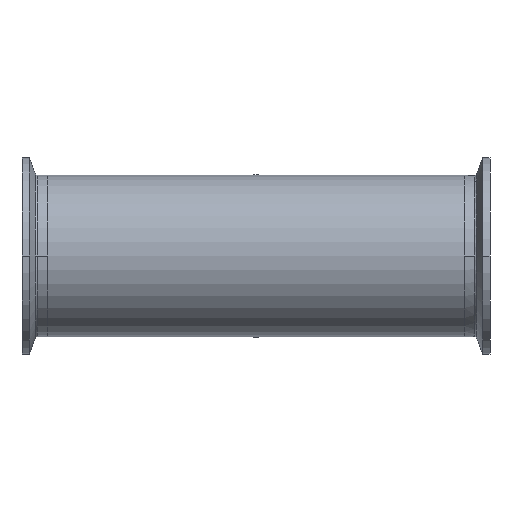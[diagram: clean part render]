
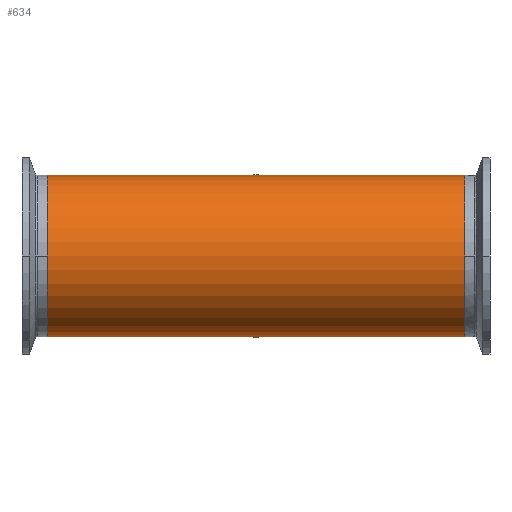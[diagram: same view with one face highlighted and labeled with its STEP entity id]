
A CAD part, front view. The second image highlights one B-rep face of the part: STEP entity #634.
In plain terms, the highlighted cylindrical face has radius 31.75 mm (diameter 63.5 mm), a partial arc.
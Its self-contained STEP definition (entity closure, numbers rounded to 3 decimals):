
#41 = VECTOR ( 'NONE', #3754, 1000. ) ;
#60 = VECTOR ( 'NONE', #247, 1000. ) ;
#125 = AXIS2_PLACEMENT_3D ( 'NONE', #4373, #3361, #4949 ) ;
#181 = CARTESIAN_POINT ( 'NONE',  ( 171.903, 0., -31.75 ) ) ;
#247 = DIRECTION ( 'NONE',  ( -1., 0., 0. ) ) ;
#273 = DIRECTION ( 'NONE',  ( 0., 0., 1. ) ) ;
#344 = ORIENTED_EDGE ( 'NONE', *, *, #4504, .T. ) ;
#389 = ORIENTED_EDGE ( 'NONE', *, *, #1855, .T. ) ;
#634 = ADVANCED_FACE ( 'NONE', ( #2067 ), #4857, .T. ) ;
#1015 = VERTEX_POINT ( 'NONE', #2542 ) ;
#1022 = CARTESIAN_POINT ( 'NONE',  ( 171.903, 0., 31.75 ) ) ;
#1091 = LINE ( 'NONE', #1022, #41 ) ;
#1224 = LINE ( 'NONE', #181, #60 ) ;
#1501 = EDGE_CURVE ( 'NONE', #2989, #1015, #1224, .T. ) ;
#1531 = ORIENTED_EDGE ( 'NONE', *, *, #1501, .F. ) ;
#1855 = EDGE_CURVE ( 'NONE', #3515, #1015, #2256, .T. ) ;
#2067 = FACE_OUTER_BOUND ( 'NONE', #2893, .T. ) ;
#2146 = DIRECTION ( 'NONE',  ( 1., 0., 0. ) ) ;
#2256 = CIRCLE ( 'NONE', #4359, 31.75 ) ;
#2538 = ORIENTED_EDGE ( 'NONE', *, *, #3683, .T. ) ;
#2542 = CARTESIAN_POINT ( 'NONE',  ( -82.1, 0., -31.75 ) ) ;
#2664 = DIRECTION ( 'NONE',  ( -1., 0., 0. ) ) ;
#2693 = CARTESIAN_POINT ( 'NONE',  ( 82.1, 0., -31.75 ) ) ;
#2805 = VERTEX_POINT ( 'NONE', #5016 ) ;
#2893 = EDGE_LOOP ( 'NONE', ( #1531, #344, #2538, #389 ) ) ;
#2989 = VERTEX_POINT ( 'NONE', #2693 ) ;
#3361 = DIRECTION ( 'NONE',  ( -1., 0., 0. ) ) ;
#3430 = CIRCLE ( 'NONE', #3773, 31.75 ) ;
#3515 = VERTEX_POINT ( 'NONE', #3642 ) ;
#3642 = CARTESIAN_POINT ( 'NONE',  ( -82.1, 0., 31.75 ) ) ;
#3683 = EDGE_CURVE ( 'NONE', #2805, #3515, #1091, .T. ) ;
#3754 = DIRECTION ( 'NONE',  ( -1., 0., 0. ) ) ;
#3773 = AXIS2_PLACEMENT_3D ( 'NONE', #4900, #2664, #273 ) ;
#4359 = AXIS2_PLACEMENT_3D ( 'NONE', #4412, #2146, #4786 ) ;
#4373 = CARTESIAN_POINT ( 'NONE',  ( 171.903, 0., 0. ) ) ;
#4412 = CARTESIAN_POINT ( 'NONE',  ( -82.1, 0., 0. ) ) ;
#4504 = EDGE_CURVE ( 'NONE', #2989, #2805, #3430, .T. ) ;
#4786 = DIRECTION ( 'NONE',  ( 0., 0., 1. ) ) ;
#4857 = CYLINDRICAL_SURFACE ( 'NONE', #125, 31.75 ) ;
#4900 = CARTESIAN_POINT ( 'NONE',  ( 82.1, 0., 0. ) ) ;
#4949 = DIRECTION ( 'NONE',  ( 0., 0., 1. ) ) ;
#5016 = CARTESIAN_POINT ( 'NONE',  ( 82.1, 0., 31.75 ) ) ;
